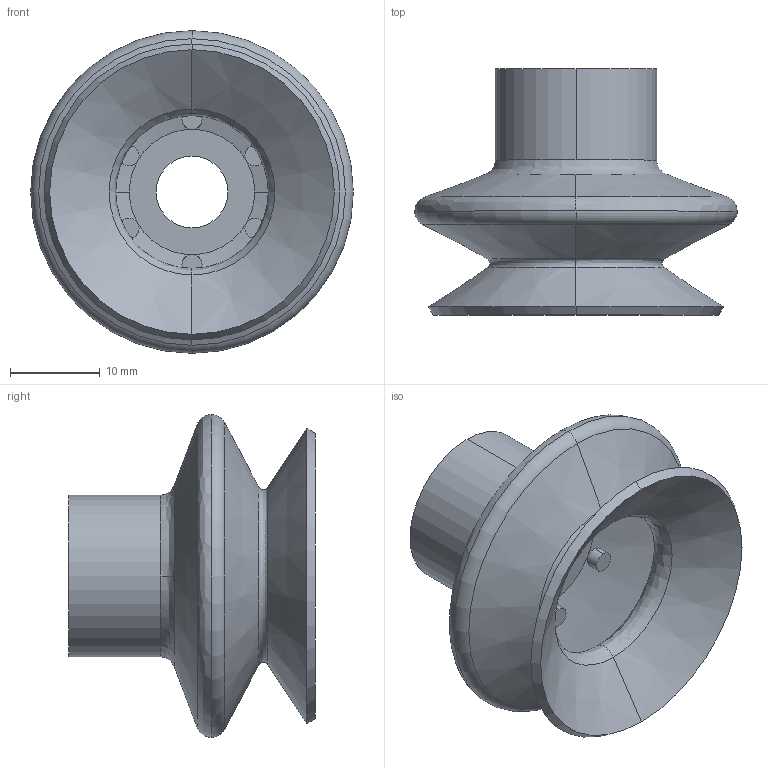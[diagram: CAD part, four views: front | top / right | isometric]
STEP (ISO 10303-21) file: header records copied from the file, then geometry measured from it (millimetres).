
FILE_DESCRIPTION (( 'STEP AP214' ), '1' );
FILE_NAME ('FGA33.STEP', '2023-03-07T06:30:56', ( 'Windows User' ), ( 'P R C' ), 'SwSTEP 2.0', 'SolidWorks 2019', '' );
FILE_SCHEMA (( 'AUTOMOTIVE_DESIGN' ));
Length unit declared in the file: millimetre
Products named in the file (1): FGA33
Bounding box: 36 x 27.5 x 36 mm (x, y, z)
Volume: 5666.7 mm3; surface area: 6306.7 mm2
Topology: 1 solids, 1 shells, 52 faces, 120 edges, 70 vertices
Faces by surface type: cylinder 16, cone 14, bspline 12, plane 8, torus 2
Entity records: 1828 total; most frequent: CARTESIAN_POINT 683, ORIENTED_EDGE 240, DIRECTION 236, EDGE_CURVE 120, AXIS2_PLACEMENT_3D 103, VERTEX_POINT 70, CIRCLE 62, EDGE_LOOP 54
